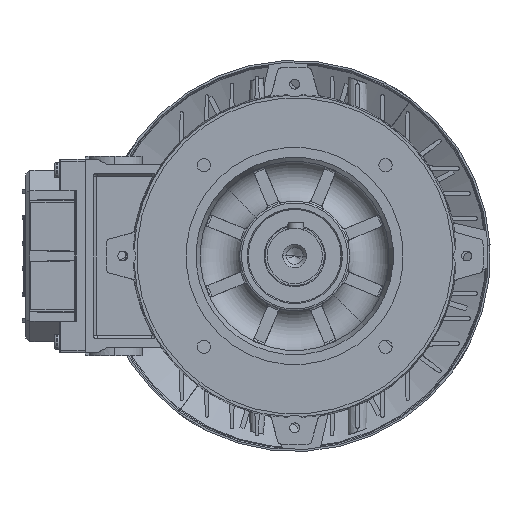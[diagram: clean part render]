
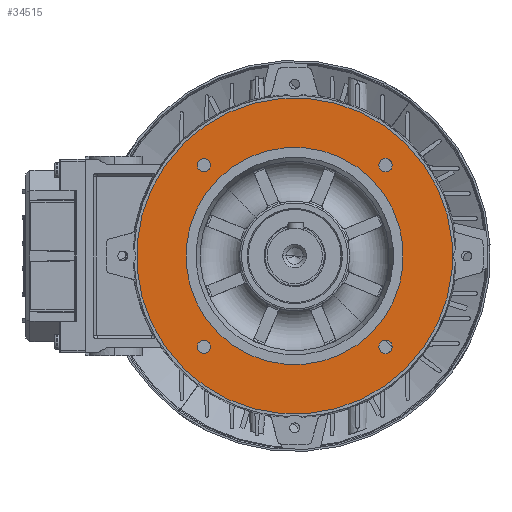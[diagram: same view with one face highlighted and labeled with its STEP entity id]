
A CAD part, left-side view. The second image highlights one B-rep face of the part: STEP entity #34515.
In plain terms, the highlighted planar face has unit normal (-1, 0, 0) as drawn and (0, 1, 0) by its records, which use the part's own axes.
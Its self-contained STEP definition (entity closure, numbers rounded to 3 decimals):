
#587 = CARTESIAN_POINT ( 'NONE',  ( 0., 44., -55. ) ) ;
#1599 = AXIS2_PLACEMENT_3D ( 'NONE', #101053, #48071, #109897 ) ;
#1949 = VERTEX_POINT ( 'NONE', #31806 ) ;
#2256 = FACE_BOUND ( 'NONE', #21479, .T. ) ;
#5292 = AXIS2_PLACEMENT_3D ( 'NONE', #43986, #105841, #52853 ) ;
#5872 = AXIS2_PLACEMENT_3D ( 'NONE', #75904, #23073, #84857 ) ;
#6768 = CIRCLE ( 'NONE', #1599, 55. ) ;
#7296 = CARTESIAN_POINT ( 'NONE',  ( 0., 44., 0. ) ) ;
#7343 = EDGE_CURVE ( 'NONE', #22201, #107883, #80654, .T. ) ;
#7707 = DIRECTION ( 'NONE',  ( 0., -1., 0. ) ) ;
#8708 = AXIS2_PLACEMENT_3D ( 'NONE', #11975, #73720, #20873 ) ;
#8825 = DIRECTION ( 'NONE',  ( 0., -1., 0. ) ) ;
#11975 = CARTESIAN_POINT ( 'NONE',  ( 0., 44., -65. ) ) ;
#13295 = FACE_BOUND ( 'NONE', #51854, .T. ) ;
#13600 = ORIENTED_EDGE ( 'NONE', *, *, #14895, .T. ) ;
#13913 = CARTESIAN_POINT ( 'NONE',  ( 0., 44., 65. ) ) ;
#14895 = EDGE_CURVE ( 'NONE', #63615, #40730, #80804, .T. ) ;
#15651 = CARTESIAN_POINT ( 'NONE',  ( -65., 44., 0. ) ) ;
#16160 = DIRECTION ( 'NONE',  ( 0., 0., 1. ) ) ;
#16572 = ORIENTED_EDGE ( 'NONE', *, *, #100606, .T. ) ;
#17750 = VERTEX_POINT ( 'NONE', #99200 ) ;
#18052 = ORIENTED_EDGE ( 'NONE', *, *, #35835, .T. ) ;
#18536 = CARTESIAN_POINT ( 'NONE',  ( 0., 44., 55. ) ) ;
#18947 = CIRCLE ( 'NONE', #5872, 3.4 ) ;
#19244 = VERTEX_POINT ( 'NONE', #99744 ) ;
#20873 = DIRECTION ( 'NONE',  ( 0., 0., -1. ) ) ;
#21276 = CIRCLE ( 'NONE', #69402, 3.4 ) ;
#21479 = EDGE_LOOP ( 'NONE', ( #16572, #50535 ) ) ;
#21604 = EDGE_LOOP ( 'NONE', ( #18052, #91202 ) ) ;
#22201 = VERTEX_POINT ( 'NONE', #111542 ) ;
#22840 = DIRECTION ( 'NONE',  ( 0., 0., -1. ) ) ;
#23073 = DIRECTION ( 'NONE',  ( 0., -1., 0. ) ) ;
#23803 = AXIS2_PLACEMENT_3D ( 'NONE', #48388, #110235, #57276 ) ;
#23872 = EDGE_CURVE ( 'NONE', #107883, #22201, #21276, .T. ) ;
#24514 = DIRECTION ( 'NONE',  ( 0., 0., -1. ) ) ;
#24543 = CARTESIAN_POINT ( 'NONE',  ( 0., 44., 65. ) ) ;
#25716 = FACE_BOUND ( 'NONE', #21604, .T. ) ;
#28960 = ORIENTED_EDGE ( 'NONE', *, *, #7343, .T. ) ;
#30997 = EDGE_LOOP ( 'NONE', ( #28960, #112037 ) ) ;
#31806 = CARTESIAN_POINT ( 'NONE',  ( 0., 44., -61.6 ) ) ;
#32291 = CIRCLE ( 'NONE', #97488, 3.4 ) ;
#32419 = EDGE_CURVE ( 'NONE', #17750, #64819, #86934, .T. ) ;
#33435 = DIRECTION ( 'NONE',  ( 0., 0., -1. ) ) ;
#34329 = CIRCLE ( 'NONE', #62250, 55. ) ;
#34515 = ADVANCED_FACE ( 'NONE', ( #25716, #13295, #49214, #2256, #93452, #69893 ), #104660, .F. ) ;
#35690 = CIRCLE ( 'NONE', #65082, 3.4 ) ;
#35835 = EDGE_CURVE ( 'NONE', #19244, #72684, #105679, .T. ) ;
#36222 = ORIENTED_EDGE ( 'NONE', *, *, #62622, .F. ) ;
#40730 = VERTEX_POINT ( 'NONE', #64576 ) ;
#42136 = VERTEX_POINT ( 'NONE', #18536 ) ;
#42433 = CARTESIAN_POINT ( 'NONE',  ( 65., 44., 3.4 ) ) ;
#43148 = CARTESIAN_POINT ( 'NONE',  ( -65., 44., 3.4 ) ) ;
#43479 = ORIENTED_EDGE ( 'NONE', *, *, #72638, .F. ) ;
#43986 = CARTESIAN_POINT ( 'NONE',  ( 0., 44., 0. ) ) ;
#44716 = CARTESIAN_POINT ( 'NONE',  ( 0., 44., 0. ) ) ;
#48071 = DIRECTION ( 'NONE',  ( 0., 1., 0. ) ) ;
#48388 = CARTESIAN_POINT ( 'NONE',  ( 65., 44., 0. ) ) ;
#49214 = FACE_BOUND ( 'NONE', #30997, .T. ) ;
#50535 = ORIENTED_EDGE ( 'NONE', *, *, #88448, .T. ) ;
#51854 = EDGE_LOOP ( 'NONE', ( #13600, #80114 ) ) ;
#51998 = DIRECTION ( 'NONE',  ( 0., -1., 0. ) ) ;
#52853 = DIRECTION ( 'NONE',  ( 0., 0., 1. ) ) ;
#53589 = DIRECTION ( 'NONE',  ( 0., 0., 1. ) ) ;
#53908 = AXIS2_PLACEMENT_3D ( 'NONE', #58608, #7707, #69418 ) ;
#57276 = DIRECTION ( 'NONE',  ( 0., 0., -1. ) ) ;
#58608 = CARTESIAN_POINT ( 'NONE',  ( 55., 44., 0. ) ) ;
#60413 = CARTESIAN_POINT ( 'NONE',  ( 0., 44., -80. ) ) ;
#61627 = CARTESIAN_POINT ( 'NONE',  ( -65., 44., 0. ) ) ;
#62250 = AXIS2_PLACEMENT_3D ( 'NONE', #7296, #68980, #16160 ) ;
#62622 = EDGE_CURVE ( 'NONE', #42136, #114366, #6768, .T. ) ;
#63615 = VERTEX_POINT ( 'NONE', #65699 ) ;
#64576 = CARTESIAN_POINT ( 'NONE',  ( 0., 44., 68.4 ) ) ;
#64819 = VERTEX_POINT ( 'NONE', #60413 ) ;
#65082 = AXIS2_PLACEMENT_3D ( 'NONE', #15651, #77364, #24514 ) ;
#65699 = CARTESIAN_POINT ( 'NONE',  ( 0., 44., 61.6 ) ) ;
#67184 = AXIS2_PLACEMENT_3D ( 'NONE', #24543, #86350, #33435 ) ;
#68216 = VERTEX_POINT ( 'NONE', #87336 ) ;
#68980 = DIRECTION ( 'NONE',  ( 0., 1., 0. ) ) ;
#69272 = ORIENTED_EDGE ( 'NONE', *, *, #32419, .T. ) ;
#69402 = AXIS2_PLACEMENT_3D ( 'NONE', #104978, #51998, #113883 ) ;
#69418 = DIRECTION ( 'NONE',  ( 0., 0., -1. ) ) ;
#69893 = FACE_OUTER_BOUND ( 'NONE', #89207, .T. ) ;
#70505 = DIRECTION ( 'NONE',  ( 0., 0., -1. ) ) ;
#72638 = EDGE_CURVE ( 'NONE', #114366, #42136, #34329, .T. ) ;
#72684 = VERTEX_POINT ( 'NONE', #43148 ) ;
#73720 = DIRECTION ( 'NONE',  ( 0., -1., 0. ) ) ;
#75652 = DIRECTION ( 'NONE',  ( 0., -1., 0. ) ) ;
#75904 = CARTESIAN_POINT ( 'NONE',  ( 0., 44., -65. ) ) ;
#77364 = DIRECTION ( 'NONE',  ( 0., -1., 0. ) ) ;
#80114 = ORIENTED_EDGE ( 'NONE', *, *, #91052, .T. ) ;
#80477 = CIRCLE ( 'NONE', #8708, 3.4 ) ;
#80654 = CIRCLE ( 'NONE', #23803, 3.4 ) ;
#80804 = CIRCLE ( 'NONE', #67184, 3.4 ) ;
#84857 = DIRECTION ( 'NONE',  ( 0., 0., -1. ) ) ;
#86350 = DIRECTION ( 'NONE',  ( 0., -1., 0. ) ) ;
#86934 = CIRCLE ( 'NONE', #89318, 80. ) ;
#87336 = CARTESIAN_POINT ( 'NONE',  ( 0., 44., -68.4 ) ) ;
#88448 = EDGE_CURVE ( 'NONE', #1949, #68216, #18947, .T. ) ;
#89207 = EDGE_LOOP ( 'NONE', ( #69272, #109313 ) ) ;
#89318 = AXIS2_PLACEMENT_3D ( 'NONE', #44716, #106566, #53589 ) ;
#91052 = EDGE_CURVE ( 'NONE', #40730, #63615, #32291, .T. ) ;
#91202 = ORIENTED_EDGE ( 'NONE', *, *, #104231, .T. ) ;
#93452 = FACE_BOUND ( 'NONE', #99293, .T. ) ;
#95057 = CIRCLE ( 'NONE', #5292, 80. ) ;
#96290 = AXIS2_PLACEMENT_3D ( 'NONE', #61627, #8825, #70505 ) ;
#97488 = AXIS2_PLACEMENT_3D ( 'NONE', #13913, #75652, #22840 ) ;
#99200 = CARTESIAN_POINT ( 'NONE',  ( 0., 44., 80. ) ) ;
#99293 = EDGE_LOOP ( 'NONE', ( #36222, #43479 ) ) ;
#99744 = CARTESIAN_POINT ( 'NONE',  ( -65., 44., -3.4 ) ) ;
#100606 = EDGE_CURVE ( 'NONE', #68216, #1949, #80477, .T. ) ;
#101053 = CARTESIAN_POINT ( 'NONE',  ( 0., 44., 0. ) ) ;
#104231 = EDGE_CURVE ( 'NONE', #72684, #19244, #35690, .T. ) ;
#104660 = PLANE ( 'NONE',  #53908 ) ;
#104892 = EDGE_CURVE ( 'NONE', #64819, #17750, #95057, .T. ) ;
#104978 = CARTESIAN_POINT ( 'NONE',  ( 65., 44., 0. ) ) ;
#105679 = CIRCLE ( 'NONE', #96290, 3.4 ) ;
#105841 = DIRECTION ( 'NONE',  ( 0., 1., 0. ) ) ;
#106566 = DIRECTION ( 'NONE',  ( 0., 1., 0. ) ) ;
#107883 = VERTEX_POINT ( 'NONE', #42433 ) ;
#109313 = ORIENTED_EDGE ( 'NONE', *, *, #104892, .T. ) ;
#109897 = DIRECTION ( 'NONE',  ( 0., 0., 1. ) ) ;
#110235 = DIRECTION ( 'NONE',  ( 0., -1., 0. ) ) ;
#111542 = CARTESIAN_POINT ( 'NONE',  ( 65., 44., -3.4 ) ) ;
#112037 = ORIENTED_EDGE ( 'NONE', *, *, #23872, .T. ) ;
#113883 = DIRECTION ( 'NONE',  ( 0., 0., -1. ) ) ;
#114366 = VERTEX_POINT ( 'NONE', #587 ) ;
